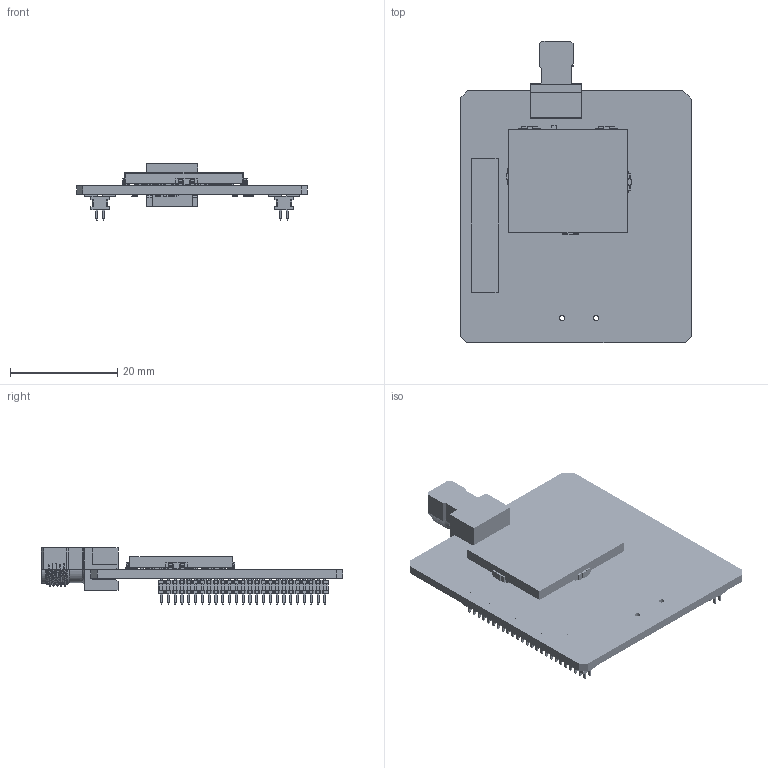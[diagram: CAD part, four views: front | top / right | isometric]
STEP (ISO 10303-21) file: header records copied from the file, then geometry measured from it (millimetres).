
FILE_DESCRIPTION(('Open CASCADE Model'),'2;1');
FILE_NAME('Open CASCADE Shape Model','2025-02-26T11:20:44',('Author'),( 'Open CASCADE'),'Open CASCADE STEP processor 7.5','Open CASCADE 7.5' ,'Unknown');
FILE_SCHEMA(('AUTOMOTIVE_DESIGN { 1 0 10303 214 1 1 1 1 }'));
Length unit declared in the file: millimetre
Products named in the file (126): PCB; Board; Open CASCADE STEP translator 7.5 1.1.1; CN4; SMA_CINCH-JOHN_142-0701-851; 6896976848; Extruded; SH1; Shield_Miniboard_V2; L7; FERRITE_BEAD_0603; User Library-FB_1608-1_Pad001; User Library-FB_1608-1_Cut; 6581649536; L5; C0402; 6581187616; SB30; R0402; 6581184816; SB17; SB10; SB42; SB41; L6; L0805; 6581649936; L4; 6581185136; C26; 6581646096; C24; C23; C6; 6581646416; 6581646656; L1; L2; CN2; FTSH-125-02-L-DV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
Assembly tree (216 placements, depth 4):
  PCB
    Board
      Open CASCADE STEP translator 7.5 1.1.1
    CN4
      SMA_CINCH-JOHN_142-0701-851
      6896976848
        Extruded
    SH1
      Shield_Miniboard_V2
    L7
      FERRITE_BEAD_0603
        User Library-FB_1608-1_Pad001
        User Library-FB_1608-1_Cut
      6581649536
        Extruded
    L5
      C0402
      6581187616
        Extruded
    SB30
      R0402
      6581184816
        Extruded
    SB17
      R0402
      6581184816
        Extruded
    SB10
      R0402
      6581184816
        Extruded
    SB42
      R0402
      6581184816
        Extruded
    SB41
      R0402
      6581184816
        Extruded
    L6
      L0805
      6581649936
        Extruded
    L4
      FERRITE_BEAD_0603
        User Library-FB_1608-1_Pad001
        User Library-FB_1608-1_Cut
      6581185136
        Extruded
    C26
      C0402
      6581646096
        Extruded
    C24
      C0402
      6581646096
        Extruded
    C23
      C0402
      6581187616
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Bounding box: 43 x 56.21 x 10.5 mm (x, y, z)
Volume: 4714.5 mm3; surface area: 10083 mm2
Topology: 426 solids, 426 shells, 14021 faces, 33048 edges, 19191 vertices
Faces by surface type: plane 7000, cylinder 3596, bspline 1885, sphere 1176, torus 198, revolution 160, cone 6
Full cylindrical faces by diameter (mm): 0.991 x1, 1 x2, 4.674 x1, 5.08 x1, 5.385 x1
Entity records: 124533 total; most frequent: CARTESIAN_POINT 28805, ORIENTED_EDGE 17330, DIRECTION 16524, EDGE_CURVE 8665, LINE 7352, VECTOR 7352, VERTEX_POINT 5531, AXIS2_PLACEMENT_3D 4582
